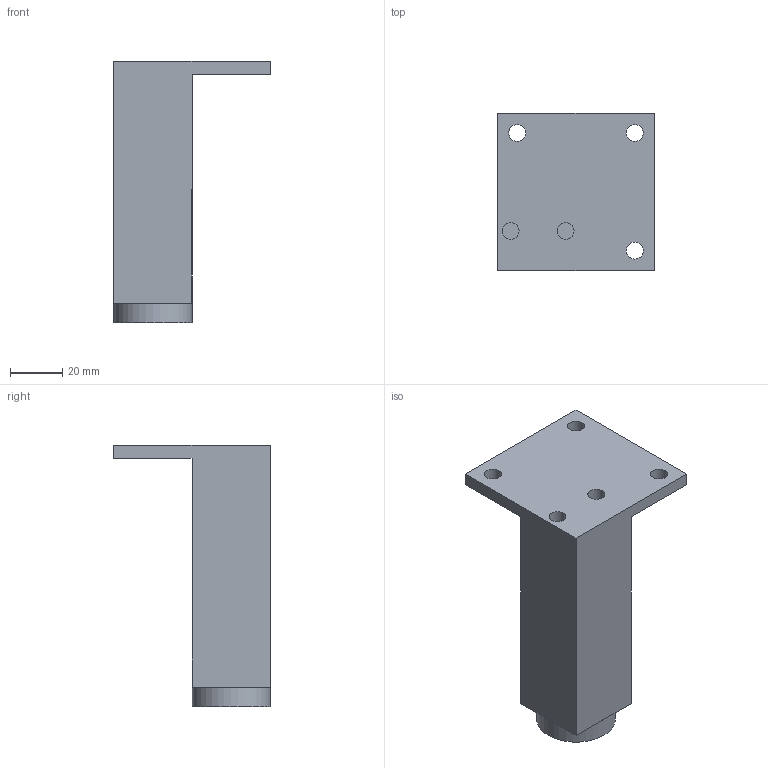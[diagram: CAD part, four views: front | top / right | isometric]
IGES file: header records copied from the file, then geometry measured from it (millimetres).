
Start section: Data from Parasolid IGES Translator 20.0.26, Copyright(c) 2006 Siemens P LM Software. All Rights Reserved.
Global section: file name: 9119446.igs; native system: By Siemens PLM Incorporated; preprocessor: XPlus GENERIC/IGES 20.0.26; author: Noname; organization: Noname; date: 20210125.170421; units: millimetre
Bounding box: 60 x 60 x 100 mm (x, y, z)
Surface area: 19917.9 mm2 (no closed solid volume)
Topology: 0 solids, 0 shells, 21 faces, 92 edges, 83 vertices
Faces by surface type: extrusion 15, revolution 6
